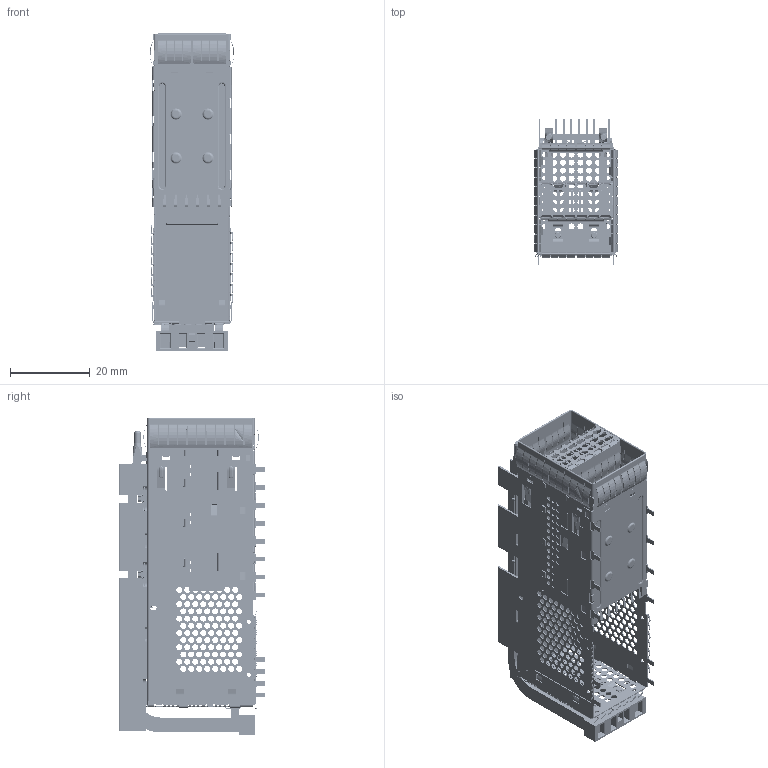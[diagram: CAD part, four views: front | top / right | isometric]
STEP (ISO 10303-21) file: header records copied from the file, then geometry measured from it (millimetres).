
FILE_DESCRIPTION((''),'2;1');
FILE_NAME('KEHU','2023-08-30T08:37:37',('13823137'),(''),'CREO PARAMETRIC BY PTC INC, 2019471','CREO PARAMETRIC BY PTC INC, 2019471','');
FILE_SCHEMA(('CONFIG_CONTROL_DESIGN'));
Products named in the file (1): KEHU
Bounding box: 21.26 x 36.55 x 79.51 mm (x, y, z)
Volume: 8767.2 mm3; surface area: 34342.6 mm2
Topology: 1 solids, 1 shells, 8051 faces, 21550 edges, 13173 vertices
Faces by surface type: plane 3967, cylinder 3387, bspline 533, torus 156, cone 8
Entity records: 270231 total; most frequent: CARTESIAN_POINT 68062, ORIENTED_EDGE 43100, DIRECTION 41103, EDGE_CURVE 21550, VECTOR 13727, LINE 13727, AXIS2_PLACEMENT_3D 13688, VERTEX_POINT 13173
